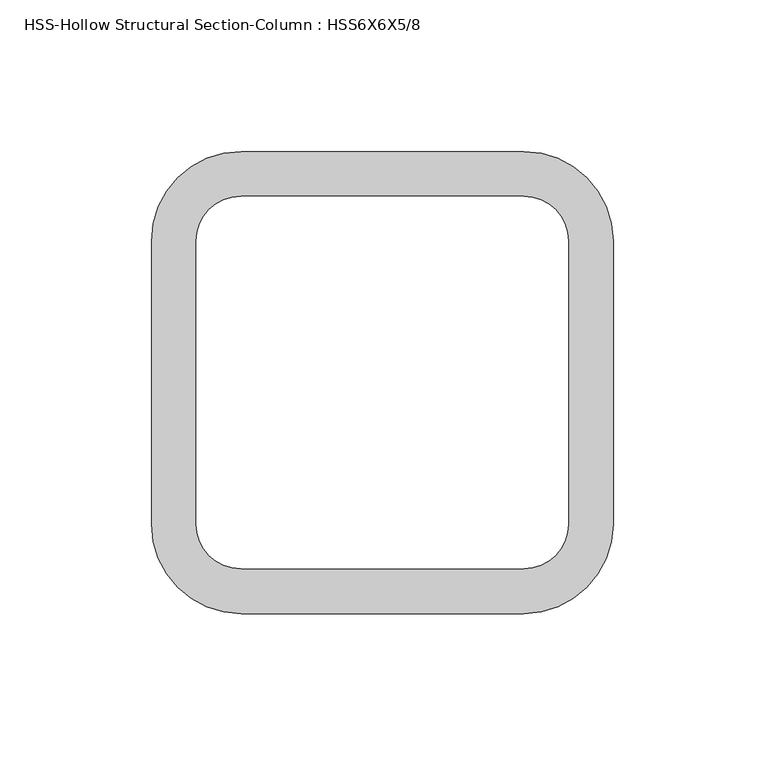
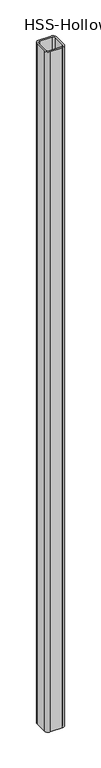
"""IFC4 building model written with IfcOpenShell, lengths in millimetres: column geometry, HSS-Hollow Structural Section-Column : HSS6X6X5/8."""

from ifc_helpers import new_model, si_unit, point, frame_2d, origin, origin_with_axes, place, context, project, spatial, polyline, circle_curve, trimmed, segment, composite_curve, outline, extrude, source, transform, mapped, element, save


def hss_hollow_structural_section_column_hss6x6x5_8_5bbd49d1(model_context):
    return source(origin(), model_context, "Body", "SweptSolid", [
        extrude(outline(composite_curve([segment(polyline([(46.6852, -76.2), (-46.6852, -76.2)]), True, "CONTINUOUS"), segment(trimmed(circle_curve(frame_2d((-46.6852, -46.6852)), 29.5148), [point((-46.6852, -76.2))], [point((-76.2, -46.6852))], False, "CARTESIAN"), True, "CONTINUOUS"), segment(polyline([(-76.2, -46.6852), (-76.2, 46.6852)]), True, "CONTINUOUS"), segment(trimmed(circle_curve(frame_2d((-46.6852, 46.6852)), 29.5148), [point((-76.2, 46.6852))], [point((-46.6852, 76.2))], False, "CARTESIAN"), True, "CONTINUOUS"), segment(polyline([(-46.6852, 76.2), (46.6852, 76.2)]), True, "CONTINUOUS"), segment(trimmed(circle_curve(frame_2d((46.6852, 46.6852)), 29.5148), [point((46.6852, 76.2))], [point((76.2, 46.6852))], False, "CARTESIAN"), True, "CONTINUOUS"), segment(polyline([(76.2, 46.6852), (76.2, -46.6852)]), True, "CONTINUOUS"), segment(trimmed(circle_curve(frame_2d((46.6852, -46.6852)), 29.5148), [point((76.2, -46.6852))], [point((46.6852, -76.2))], False, "CARTESIAN"), True, "CONTINUOUS")], self_intersect=False), holes=[composite_curve([segment(trimmed(circle_curve(frame_2d((46.6852, -46.6852)), 14.7574), [point((46.6852, -61.4426))], [point((61.4426, -46.6852))], True, "CARTESIAN"), True, "CONTINUOUS"), segment(polyline([(61.4426, -46.6852), (61.4426, 46.6852)]), True, "CONTINUOUS"), segment(trimmed(circle_curve(frame_2d((46.6852, 46.6852)), 14.7574), [point((61.4426, 46.6852))], [point((46.6852, 61.4426))], True, "CARTESIAN"), True, "CONTINUOUS"), segment(polyline([(46.6852, 61.4426), (-46.6852, 61.4426)]), True, "CONTINUOUS"), segment(trimmed(circle_curve(frame_2d((-46.6852, 46.6852)), 14.7574), [point((-46.6852, 61.4426))], [point((-61.4426, 46.6852))], True, "CARTESIAN"), True, "CONTINUOUS"), segment(polyline([(-61.4426, 46.6852), (-61.4426, -46.6852)]), True, "CONTINUOUS"), segment(trimmed(circle_curve(frame_2d((-46.6852, -46.6852)), 14.7574), [point((-61.4426, -46.6852))], [point((-46.6852, -61.4426))], True, "CARTESIAN"), True, "CONTINUOUS"), segment(polyline([(-46.6852, -61.4426), (46.6852, -61.4426)]), True, "CONTINUOUS")], self_intersect=False)]), origin_with_axes(), (0.0, 0.0, 1.0), 5486.4),
    ])


if __name__ == "__main__":
    model = new_model("IFC4")
    model_context = context("Model", 3, world=origin())
    ifc_project = project(units=[si_unit("LENGTHUNIT", "METRE", prefix="MILLI")], contexts=[model_context])
    site = spatial("IfcSite", under=ifc_project)
    building = spatial("IfcBuilding", under=site)
    placement = place(None, origin())
    hss_hollow_structural_section_column_hss6x6x5_8_shape = hss_hollow_structural_section_column_hss6x6x5_8_5bbd49d1(model_context)
    element("IfcColumn", 1, ObjectType="HSS-Hollow Structural Section-Column : HSS6X6X5/8", at=placement, inside=building, context=model_context, shape_type="MappedRepresentation", body=[
        mapped(hss_hollow_structural_section_column_hss6x6x5_8_shape, transform((0.0, 0.0, 0.0), x_axis=(1.0, 0.0, 0.0), y_axis=(0.0, 1.0, 0.0), z_axis=(0.0, 0.0, 1.0))),
    ])
    save(model, "model.ifc")
